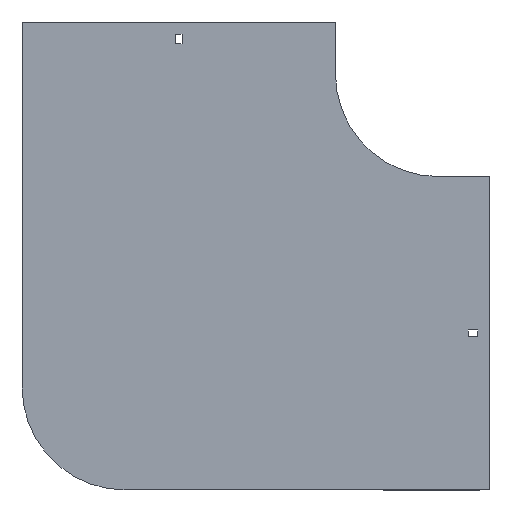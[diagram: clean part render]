
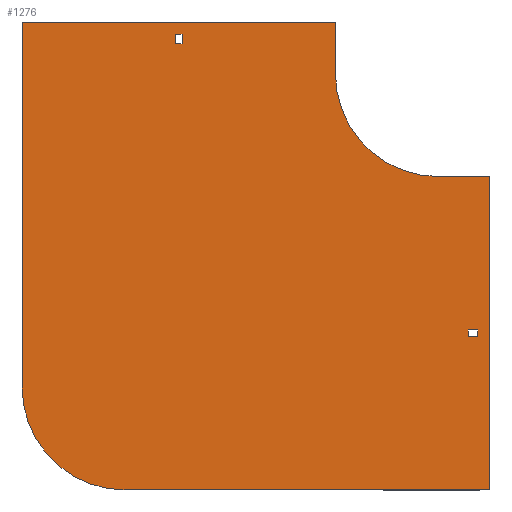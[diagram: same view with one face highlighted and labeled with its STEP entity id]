
A CAD part, front view. The second image highlights one B-rep face of the part: STEP entity #1276.
In plain terms, the highlighted planar face has unit normal (0, -1, 0).
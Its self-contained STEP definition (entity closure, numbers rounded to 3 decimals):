
#21 = ORIENTED_EDGE ( 'NONE', *, *, #686, .F. ) ;
#26 = ORIENTED_EDGE ( 'NONE', *, *, #667, .F. ) ;
#37 = EDGE_CURVE ( 'NONE', #1495, #1519, #1744, .T. ) ;
#41 = FACE_BOUND ( 'NONE', #320, .T. ) ;
#50 = VERTEX_POINT ( 'NONE', #679 ) ;
#53 = LINE ( 'NONE', #488, #579 ) ;
#58 = LINE ( 'NONE', #363, #1227 ) ;
#96 = DIRECTION ( 'NONE',  ( 1., 0., 0. ) ) ;
#103 = DIRECTION ( 'NONE',  ( 0., 0., 1. ) ) ;
#105 = VERTEX_POINT ( 'NONE', #1443 ) ;
#136 = VECTOR ( 'NONE', #1273, 1000. ) ;
#139 = VECTOR ( 'NONE', #1612, 1000. ) ;
#151 = DIRECTION ( 'NONE',  ( 0., 1., 0. ) ) ;
#157 = EDGE_CURVE ( 'NONE', #812, #1275, #731, .T. ) ;
#162 = ORIENTED_EDGE ( 'NONE', *, *, #344, .F. ) ;
#166 = DIRECTION ( 'NONE',  ( 0., 0., -1. ) ) ;
#282 = CARTESIAN_POINT ( 'NONE',  ( 50., 0., -404. ) ) ;
#293 = VECTOR ( 'NONE', #103, 1000. ) ;
#306 = DIRECTION ( 'NONE',  ( 1., 0., 0. ) ) ;
#320 = EDGE_LOOP ( 'NONE', ( #26, #162, #1924, #657 ) ) ;
#321 = VECTOR ( 'NONE', #1457, 1000. ) ;
#327 = CARTESIAN_POINT ( 'NONE',  ( 29., 0., -248.75 ) ) ;
#344 = EDGE_CURVE ( 'NONE', #1519, #939, #1249, .T. ) ;
#345 = VERTEX_POINT ( 'NONE', #1413 ) ;
#363 = CARTESIAN_POINT ( 'NONE',  ( -255.25, 0., 38. ) ) ;
#366 = LINE ( 'NONE', #829, #139 ) ;
#379 = LINE ( 'NONE', #1772, #1087 ) ;
#381 = ORIENTED_EDGE ( 'NONE', *, *, #1716, .F. ) ;
#404 = EDGE_CURVE ( 'NONE', #916, #50, #1787, .T. ) ;
#415 = VECTOR ( 'NONE', #639, 1000. ) ;
#424 = ORIENTED_EDGE ( 'NONE', *, *, #1058, .F. ) ;
#449 = LINE ( 'NONE', #327, #1474 ) ;
#453 = VERTEX_POINT ( 'NONE', #1433 ) ;
#467 = CARTESIAN_POINT ( 'NONE',  ( 0., 0., 0. ) ) ;
#476 = CIRCLE ( 'NONE', #662, 100. ) ;
#488 = CARTESIAN_POINT ( 'NONE',  ( -404., 0., 50. ) ) ;
#504 = VECTOR ( 'NONE', #527, 1000. ) ;
#513 = CARTESIAN_POINT ( 'NONE',  ( 29., 0., -255.25 ) ) ;
#527 = DIRECTION ( 'NONE',  ( 0., 0., -1. ) ) ;
#530 = ORIENTED_EDGE ( 'NONE', *, *, #1148, .F. ) ;
#533 = CARTESIAN_POINT ( 'NONE',  ( -248.75, 0., 29. ) ) ;
#563 = CARTESIAN_POINT ( 'NONE',  ( 50., 0., -100. ) ) ;
#579 = VECTOR ( 'NONE', #1710, 1000. ) ;
#601 = VECTOR ( 'NONE', #995, 1000. ) ;
#639 = DIRECTION ( 'NONE',  ( 1., 0., 0. ) ) ;
#654 = CARTESIAN_POINT ( 'NONE',  ( 50., 0., -100. ) ) ;
#657 = ORIENTED_EDGE ( 'NONE', *, *, #1649, .F. ) ;
#662 = AXIS2_PLACEMENT_3D ( 'NONE', #1531, #1544, #166 ) ;
#664 = EDGE_CURVE ( 'NONE', #50, #1925, #366, .T. ) ;
#667 = EDGE_CURVE ( 'NONE', #939, #915, #379, .T. ) ;
#672 = CARTESIAN_POINT ( 'NONE',  ( -100., 0., 50. ) ) ;
#679 = CARTESIAN_POINT ( 'NONE',  ( -255.25, 0., 29. ) ) ;
#686 = EDGE_CURVE ( 'NONE', #105, #1633, #1442, .T. ) ;
#698 = ORIENTED_EDGE ( 'NONE', *, *, #978, .F. ) ;
#701 = EDGE_CURVE ( 'NONE', #870, #916, #1912, .T. ) ;
#731 = LINE ( 'NONE', #282, #1366 ) ;
#749 = ORIENTED_EDGE ( 'NONE', *, *, #664, .T. ) ;
#750 = PLANE ( 'NONE',  #1365 ) ;
#769 = ORIENTED_EDGE ( 'NONE', *, *, #1313, .T. ) ;
#812 = VERTEX_POINT ( 'NONE', #1687 ) ;
#814 = EDGE_CURVE ( 'NONE', #453, #1423, #1381, .T. ) ;
#816 = CARTESIAN_POINT ( 'NONE',  ( -404., 0., -304. ) ) ;
#829 = CARTESIAN_POINT ( 'NONE',  ( -255.25, 0., 29. ) ) ;
#870 = VERTEX_POINT ( 'NONE', #1675 ) ;
#892 = ORIENTED_EDGE ( 'NONE', *, *, #157, .F. ) ;
#897 = DIRECTION ( 'NONE',  ( -1., 0., 0. ) ) ;
#915 = VERTEX_POINT ( 'NONE', #997 ) ;
#916 = VERTEX_POINT ( 'NONE', #1133 ) ;
#939 = VERTEX_POINT ( 'NONE', #1659 ) ;
#978 = EDGE_CURVE ( 'NONE', #1275, #1341, #1382, .T. ) ;
#995 = DIRECTION ( 'NONE',  ( -1., 0., 0. ) ) ;
#997 = CARTESIAN_POINT ( 'NONE',  ( 38., 0., -248.75 ) ) ;
#1006 = ORIENTED_EDGE ( 'NONE', *, *, #1117, .F. ) ;
#1029 = ORIENTED_EDGE ( 'NONE', *, *, #814, .F. ) ;
#1058 = EDGE_CURVE ( 'NONE', #345, #105, #53, .T. ) ;
#1068 = ORIENTED_EDGE ( 'NONE', *, *, #701, .T. ) ;
#1078 = DIRECTION ( 'NONE',  ( 0., -1., 0. ) ) ;
#1087 = VECTOR ( 'NONE', #1129, 1000. ) ;
#1117 = EDGE_CURVE ( 'NONE', #1633, #453, #476, .T. ) ;
#1129 = DIRECTION ( 'NONE',  ( 0., 0., 1. ) ) ;
#1133 = CARTESIAN_POINT ( 'NONE',  ( -248.75, 0., 29. ) ) ;
#1145 = CARTESIAN_POINT ( 'NONE',  ( 29., 0., -255.25 ) ) ;
#1148 = EDGE_CURVE ( 'NONE', #1423, #812, #1296, .T. ) ;
#1176 = ORIENTED_EDGE ( 'NONE', *, *, #404, .T. ) ;
#1227 = VECTOR ( 'NONE', #96, 1000. ) ;
#1237 = CARTESIAN_POINT ( 'NONE',  ( 0., 0., -100. ) ) ;
#1249 = LINE ( 'NONE', #1715, #415 ) ;
#1264 = DIRECTION ( 'NONE',  ( -1., 0., 0. ) ) ;
#1273 = DIRECTION ( 'NONE',  ( 0., 0., -1. ) ) ;
#1275 = VERTEX_POINT ( 'NONE', #1706 ) ;
#1276 = ADVANCED_FACE ( 'NONE', ( #1404, #1844, #41 ), #750, .T. ) ;
#1290 = DIRECTION ( 'NONE',  ( 0., 0., -1. ) ) ;
#1296 = LINE ( 'NONE', #654, #136 ) ;
#1313 = EDGE_CURVE ( 'NONE', #1925, #870, #58, .T. ) ;
#1340 = LINE ( 'NONE', #1618, #293 ) ;
#1341 = VERTEX_POINT ( 'NONE', #816 ) ;
#1365 = AXIS2_PLACEMENT_3D ( 'NONE', #467, #1078, #1559 ) ;
#1366 = VECTOR ( 'NONE', #1264, 1000. ) ;
#1381 = LINE ( 'NONE', #1237, #1819 ) ;
#1382 = CIRCLE ( 'NONE', #1636, 100. ) ;
#1385 = EDGE_LOOP ( 'NONE', ( #424, #381, #698, #892, #530, #1029, #1006, #21 ) ) ;
#1404 = FACE_BOUND ( 'NONE', #1838, .T. ) ;
#1413 = CARTESIAN_POINT ( 'NONE',  ( -404., 0., 50. ) ) ;
#1423 = VERTEX_POINT ( 'NONE', #563 ) ;
#1433 = CARTESIAN_POINT ( 'NONE',  ( 0., 0., -100. ) ) ;
#1442 = LINE ( 'NONE', #672, #1782 ) ;
#1443 = CARTESIAN_POINT ( 'NONE',  ( -100., 0., 50. ) ) ;
#1457 = DIRECTION ( 'NONE',  ( 0., 0., -1. ) ) ;
#1474 = VECTOR ( 'NONE', #897, 1000. ) ;
#1495 = VERTEX_POINT ( 'NONE', #1895 ) ;
#1519 = VERTEX_POINT ( 'NONE', #1145 ) ;
#1531 = CARTESIAN_POINT ( 'NONE',  ( 0., 0., 0. ) ) ;
#1542 = CARTESIAN_POINT ( 'NONE',  ( -100., 0., 0. ) ) ;
#1544 = DIRECTION ( 'NONE',  ( 0., -1., 0. ) ) ;
#1559 = DIRECTION ( 'NONE',  ( 0., 0., -1. ) ) ;
#1612 = DIRECTION ( 'NONE',  ( 0., 0., 1. ) ) ;
#1618 = CARTESIAN_POINT ( 'NONE',  ( -404., 0., -304. ) ) ;
#1633 = VERTEX_POINT ( 'NONE', #1542 ) ;
#1636 = AXIS2_PLACEMENT_3D ( 'NONE', #1645, #151, #1825 ) ;
#1645 = CARTESIAN_POINT ( 'NONE',  ( -304., 0., -304. ) ) ;
#1649 = EDGE_CURVE ( 'NONE', #915, #1495, #449, .T. ) ;
#1659 = CARTESIAN_POINT ( 'NONE',  ( 38., 0., -255.25 ) ) ;
#1675 = CARTESIAN_POINT ( 'NONE',  ( -248.75, 0., 38. ) ) ;
#1687 = CARTESIAN_POINT ( 'NONE',  ( 50., 0., -404. ) ) ;
#1689 = CARTESIAN_POINT ( 'NONE',  ( -255.25, 0., 38. ) ) ;
#1706 = CARTESIAN_POINT ( 'NONE',  ( -304., 0., -404. ) ) ;
#1710 = DIRECTION ( 'NONE',  ( 1., 0., 0. ) ) ;
#1715 = CARTESIAN_POINT ( 'NONE',  ( 29., 0., -255.25 ) ) ;
#1716 = EDGE_CURVE ( 'NONE', #1341, #345, #1340, .T. ) ;
#1744 = LINE ( 'NONE', #513, #504 ) ;
#1772 = CARTESIAN_POINT ( 'NONE',  ( 38., 0., -255.25 ) ) ;
#1782 = VECTOR ( 'NONE', #1290, 1000. ) ;
#1787 = LINE ( 'NONE', #1899, #601 ) ;
#1819 = VECTOR ( 'NONE', #306, 1000. ) ;
#1825 = DIRECTION ( 'NONE',  ( 0., 0., 1. ) ) ;
#1838 = EDGE_LOOP ( 'NONE', ( #749, #769, #1068, #1176 ) ) ;
#1844 = FACE_OUTER_BOUND ( 'NONE', #1385, .T. ) ;
#1895 = CARTESIAN_POINT ( 'NONE',  ( 29., 0., -248.75 ) ) ;
#1899 = CARTESIAN_POINT ( 'NONE',  ( -255.25, 0., 29. ) ) ;
#1912 = LINE ( 'NONE', #533, #321 ) ;
#1924 = ORIENTED_EDGE ( 'NONE', *, *, #37, .F. ) ;
#1925 = VERTEX_POINT ( 'NONE', #1689 ) ;
